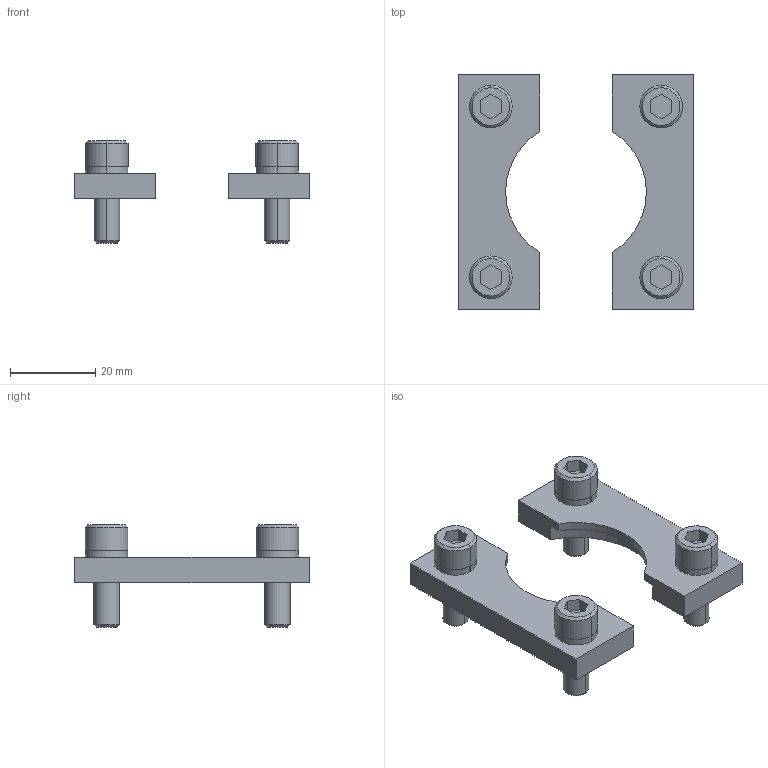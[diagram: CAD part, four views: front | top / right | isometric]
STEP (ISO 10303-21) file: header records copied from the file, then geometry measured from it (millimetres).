
FILE_DESCRIPTION(/* description */ (''),/* implementation_level */ '2;1');
FILE_NAME(/* name */ '3d_sf38_05188_r00.stp',/* time_stamp */ '2011-01-10T14:11:14+09:00',/* author */ ('MISUMI'),/* organization */ (''),/* preprocessor_version */ 'ST-DEVELOPER v11',/* originating_system */ 'UGS - NX 5.0',/* authorisation */ '');
FILE_SCHEMA (('CONFIG_CONTROL_DESIGN'));
Length unit declared in the file: millimetre
Products named in the file (1): 3d_sf38_05188_r00
Bounding box: 55 x 55 x 24 mm (x, y, z)
Volume: 12863 mm3; surface area: 9215.5 mm2
Topology: 10 solids, 10 shells, 136 faces, 304 edges, 196 vertices
Faces by surface type: plane 76, cylinder 44, cone 16
Entity records: 3856 total; most frequent: DIRECTION 682, CARTESIAN_POINT 637, ORIENTED_EDGE 608, EDGE_CURVE 304, AXIS2_PLACEMENT_3D 241, LINE 200, VECTOR 200, VERTEX_POINT 196
